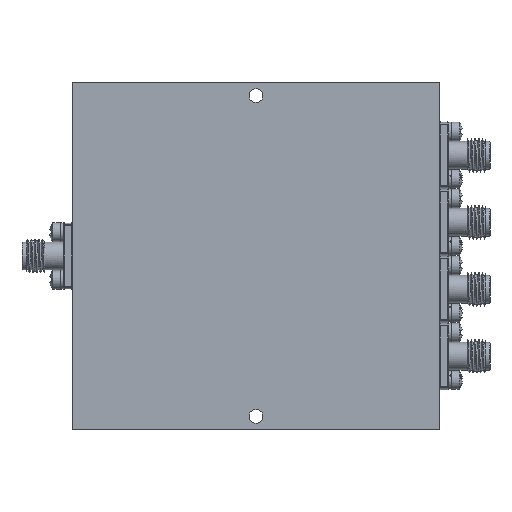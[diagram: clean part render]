
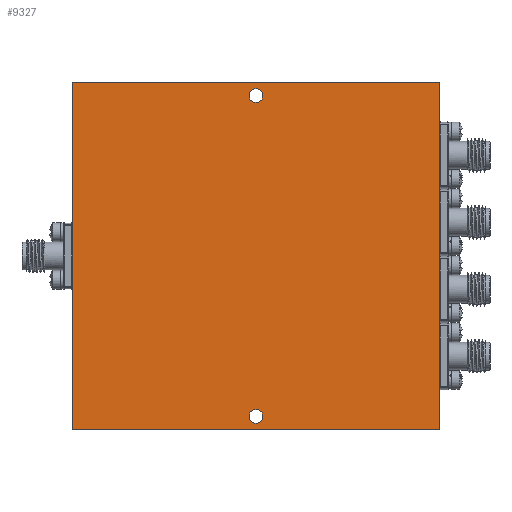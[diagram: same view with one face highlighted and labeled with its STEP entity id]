
A CAD part, front view. The second image highlights one B-rep face of the part: STEP entity #9327.
In plain terms, the highlighted planar face has unit normal (0, -1, 0).
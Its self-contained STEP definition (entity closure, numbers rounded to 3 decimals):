
#63 = DIRECTION ( 'NONE',  ( 0., 0., 1. ) ) ;
#2329 = CARTESIAN_POINT ( 'NONE',  ( 0., -12.7, 31.801 ) ) ;
#2453 = CARTESIAN_POINT ( 'NONE',  ( -34.925, -12.7, 33.02 ) ) ;
#2859 = EDGE_LOOP ( 'NONE', ( #18531 ) ) ;
#3282 = ORIENTED_EDGE ( 'NONE', *, *, #8506, .F. ) ;
#3958 = EDGE_CURVE ( 'NONE', #29240, #28137, #51450, .T. ) ;
#4233 = DIRECTION ( 'NONE',  ( 0., 1., 0. ) ) ;
#6481 = EDGE_CURVE ( 'NONE', #31392, #42865, #6589, .T. ) ;
#6589 = LINE ( 'NONE', #2453, #25022 ) ;
#8506 = EDGE_CURVE ( 'NONE', #28137, #31392, #28789, .T. ) ;
#9327 = ADVANCED_FACE ( 'NONE', ( #52722, #39883, #15115 ), #30802, .T. ) ;
#9953 = CARTESIAN_POINT ( 'NONE',  ( 0., -12.7, 0. ) ) ;
#11543 = ORIENTED_EDGE ( 'NONE', *, *, #31331, .T. ) ;
#14826 = CARTESIAN_POINT ( 'NONE',  ( 34.925, -12.7, 33.02 ) ) ;
#15115 = FACE_OUTER_BOUND ( 'NONE', #26637, .T. ) ;
#17709 = ORIENTED_EDGE ( 'NONE', *, *, #3958, .F. ) ;
#18463 = CARTESIAN_POINT ( 'NONE',  ( 0., -12.7, -30.48 ) ) ;
#18531 = ORIENTED_EDGE ( 'NONE', *, *, #48955, .T. ) ;
#21312 = CARTESIAN_POINT ( 'NONE',  ( -34.925, -12.7, 33.02 ) ) ;
#23364 = DIRECTION ( 'NONE',  ( 0., 0., -1. ) ) ;
#25022 = VECTOR ( 'NONE', #53221, 1000. ) ;
#25440 = AXIS2_PLACEMENT_3D ( 'NONE', #18463, #43479, #51445 ) ;
#26162 = ORIENTED_EDGE ( 'NONE', *, *, #6481, .F. ) ;
#26540 = AXIS2_PLACEMENT_3D ( 'NONE', #41821, #4233, #63 ) ;
#26637 = EDGE_LOOP ( 'NONE', ( #3282, #17709, #46285, #26162 ) ) ;
#26992 = VERTEX_POINT ( 'NONE', #34689 ) ;
#27415 = CIRCLE ( 'NONE', #26540, 1.321 ) ;
#27511 = CARTESIAN_POINT ( 'NONE',  ( -34.925, -12.7, 33.02 ) ) ;
#28137 = VERTEX_POINT ( 'NONE', #42881 ) ;
#28789 = LINE ( 'NONE', #21312, #41951 ) ;
#29240 = VERTEX_POINT ( 'NONE', #47913 ) ;
#30802 = PLANE ( 'NONE',  #39426 ) ;
#30816 = EDGE_LOOP ( 'NONE', ( #11543 ) ) ;
#31148 = CARTESIAN_POINT ( 'NONE',  ( -34.925, -12.7, -33.02 ) ) ;
#31331 = EDGE_CURVE ( 'NONE', #34820, #34820, #27415, .T. ) ;
#31392 = VERTEX_POINT ( 'NONE', #27511 ) ;
#31591 = DIRECTION ( 'NONE',  ( 0., 0., -1. ) ) ;
#32544 = CARTESIAN_POINT ( 'NONE',  ( 34.925, -12.7, 33.02 ) ) ;
#34689 = CARTESIAN_POINT ( 'NONE',  ( 0., -12.7, -29.159 ) ) ;
#34820 = VERTEX_POINT ( 'NONE', #2329 ) ;
#37286 = DIRECTION ( 'NONE',  ( 0., 0., 1. ) ) ;
#39426 = AXIS2_PLACEMENT_3D ( 'NONE', #9953, #52204, #23364 ) ;
#39883 = FACE_BOUND ( 'NONE', #30816, .T. ) ;
#40105 = VECTOR ( 'NONE', #47904, 1000. ) ;
#41821 = CARTESIAN_POINT ( 'NONE',  ( 0., -12.7, 30.48 ) ) ;
#41951 = VECTOR ( 'NONE', #37286, 1000. ) ;
#42545 = EDGE_CURVE ( 'NONE', #42865, #29240, #52427, .T. ) ;
#42865 = VERTEX_POINT ( 'NONE', #32544 ) ;
#42881 = CARTESIAN_POINT ( 'NONE',  ( -34.925, -12.7, -33.02 ) ) ;
#43063 = VECTOR ( 'NONE', #31591, 1000. ) ;
#43479 = DIRECTION ( 'NONE',  ( 0., 1., 0. ) ) ;
#46285 = ORIENTED_EDGE ( 'NONE', *, *, #42545, .F. ) ;
#46492 = CIRCLE ( 'NONE', #25440, 1.321 ) ;
#47904 = DIRECTION ( 'NONE',  ( -1., 0., 0. ) ) ;
#47913 = CARTESIAN_POINT ( 'NONE',  ( 34.925, -12.7, -33.02 ) ) ;
#48955 = EDGE_CURVE ( 'NONE', #26992, #26992, #46492, .T. ) ;
#51445 = DIRECTION ( 'NONE',  ( 0., 0., 1. ) ) ;
#51450 = LINE ( 'NONE', #31148, #40105 ) ;
#52204 = DIRECTION ( 'NONE',  ( 0., -1., 0. ) ) ;
#52427 = LINE ( 'NONE', #14826, #43063 ) ;
#52722 = FACE_BOUND ( 'NONE', #2859, .T. ) ;
#53221 = DIRECTION ( 'NONE',  ( 1., 0., 0. ) ) ;
